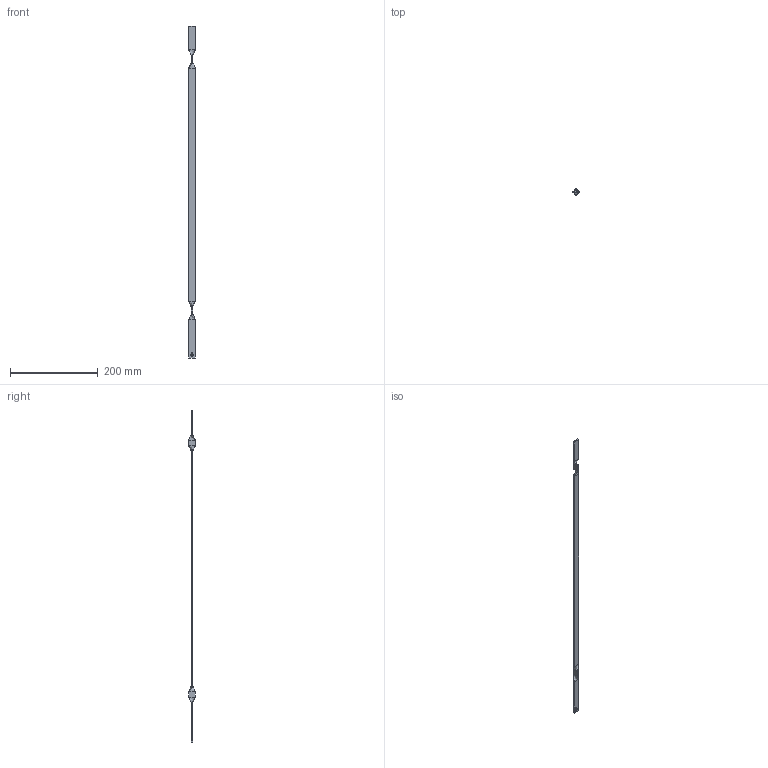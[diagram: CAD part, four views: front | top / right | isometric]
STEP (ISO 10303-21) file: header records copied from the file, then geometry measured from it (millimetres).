
FILE_DESCRIPTION (( 'STEP AP214' ), '1' );
FILE_NAME ('PP290-751.STEP', '2016-09-08T07:51:24', ( '' ), ( '' ), 'SwSTEP 2.0', 'SolidWorks 2015', '' );
FILE_SCHEMA (( 'AUTOMOTIVE_DESIGN' ));
Length unit declared in the file: millimetre
Products named in the file (1): PP290-751
Bounding box: 14 x 14 x 758.5 mm (x, y, z)
Volume: 31107.8 mm3; surface area: 25699.6 mm2
Topology: 1 solids, 1 shells, 46 faces, 100 edges, 56 vertices
Faces by surface type: plane 28, bspline 16, cylinder 2
Entity records: 1502 total; most frequent: CARTESIAN_POINT 555, ORIENTED_EDGE 200, DIRECTION 150, EDGE_CURVE 100, LINE 80, VECTOR 80, VERTEX_POINT 56, EDGE_LOOP 48
